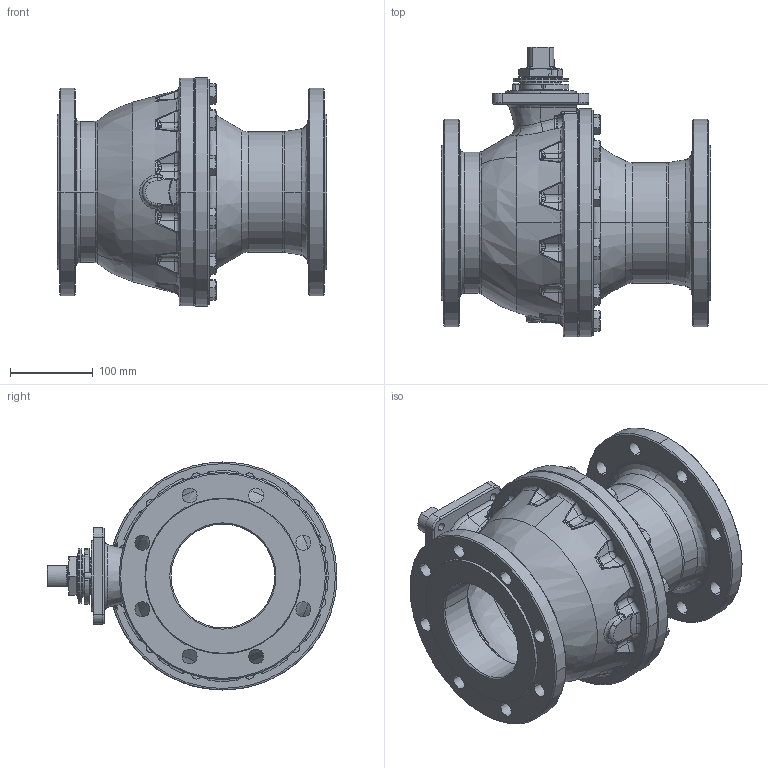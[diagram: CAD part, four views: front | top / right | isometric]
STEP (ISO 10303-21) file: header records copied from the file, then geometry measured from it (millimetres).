
FILE_DESCRIPTION (( 'STEP AP214' ), '1' );
FILE_NAME ('FIG 516 - DN125 eje libre.STEP', '2016-10-03T17:45:00', ( '' ), ( '' ), 'SwSTEP 2.0', 'SolidWorks 2016', '' );
FILE_SCHEMA (( 'AUTOMOTIVE_DESIGN' ));
Length unit declared in the file: millimetre
Products named in the file (14): 5282_46; P125G (45x35x6,4)_Comprimida; 200125_41; JT125FV (45x35x2); EPI125Q; FIG 516 - DN125 eje libre; 0516125C; 0516125L; 5182_07; DIN 6325 - Ø8x20; 5182_08; DIN 933 - M14 x 35_DIN 933 - M14 x 35; 5182_10-1; 00820920
Assembly tree (27 placements, depth 2):
  FIG 516 - DN125 eje libre
    0516125C
    0516125L
    EPI125Q
    P125G (45x35x6,4)_Comprimida  x3
    5182_10-1
    JT125FV (45x35x2)
    00820920
    200125_41
    5182_08  x2
    5282_46
    5182_07
    DIN 6325 - Ø8x20
    DIN 933 - M14 x 35_DIN 933 - M14 x 35  x12
Bounding box: 325 x 349.5 x 275 mm (x, y, z)
Volume: 4692886.8 mm3; surface area: 772962.8 mm2
Topology: 27 solids, 27 shells, 1131 faces, 2720 edges, 1601 vertices
Faces by surface type: cylinder 314, plane 291, bspline 252, cone 221, torus 49, sphere 4
Entity records: 46162 total; most frequent: CARTESIAN_POINT 28112, ORIENTED_EDGE 3912, DIRECTION 3244, EDGE_CURVE 1956, AXIS2_PLACEMENT_3D 1377, VERTEX_POINT 1203, EDGE_LOOP 915, CIRCLE 807
